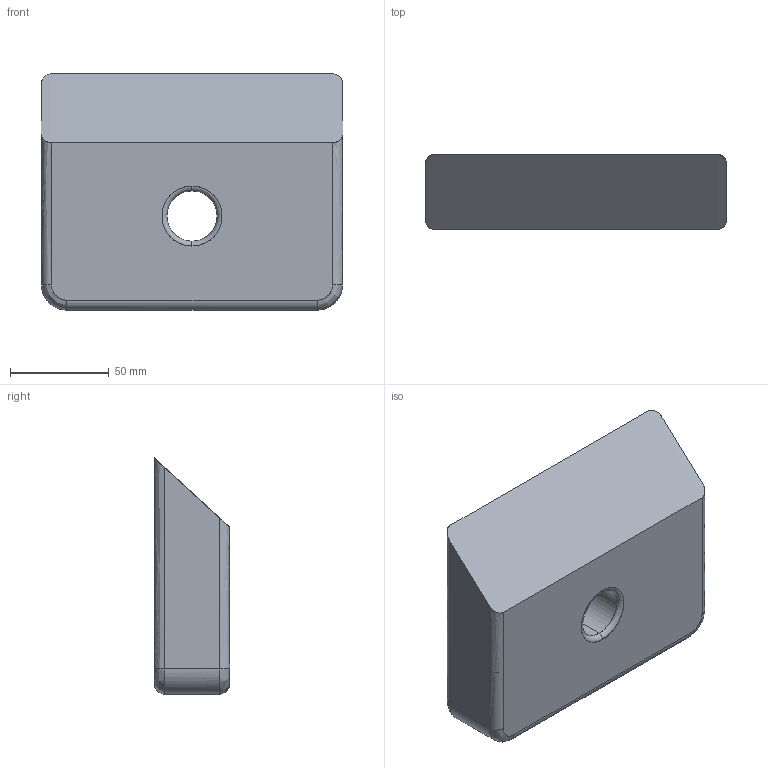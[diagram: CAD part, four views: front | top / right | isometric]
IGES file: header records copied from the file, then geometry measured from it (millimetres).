
Start section: C
Global section: file name: mounting_bracket.igs; native system:  By UGS Corp.; preprocessor: XPlus GENERIC/IGES 3.0; author: Author; organization: Title; date: 20110219.170739; units: millimetre
Bounding box: 152.4 x 38.1 x 119.54 mm (x, y, z)
Surface area: 52338.7 mm2 (no closed solid volume)
Topology: 0 solids, 0 shells, 24 faces, 108 edges, 108 vertices
Faces by surface type: bspline 24
